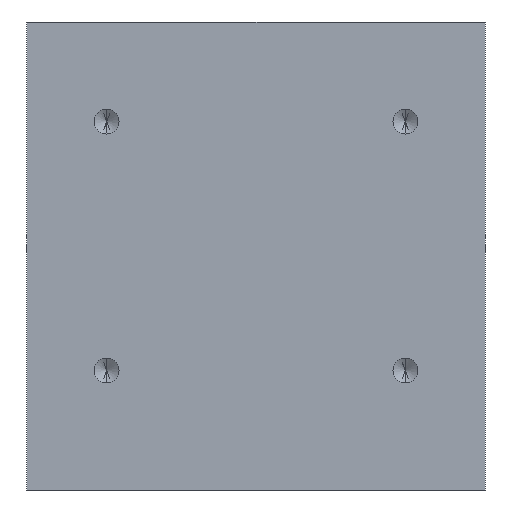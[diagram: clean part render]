
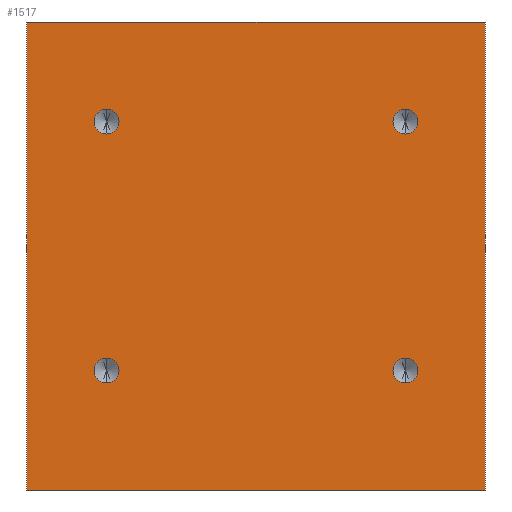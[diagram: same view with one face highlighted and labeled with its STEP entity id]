
A CAD part, left-side view. The second image highlights one B-rep face of the part: STEP entity #1517.
In plain terms, the highlighted planar face has unit normal (-1, 0, 0).
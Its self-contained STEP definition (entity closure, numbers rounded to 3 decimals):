
#8 = DIRECTION ( 'NONE',  ( 0., 0., 1. ) ) ;
#23 = EDGE_CURVE ( 'NONE', #1311, #704, #1229, .T. ) ;
#54 = CARTESIAN_POINT ( 'NONE',  ( -35., 23., 0. ) ) ;
#67 = CIRCLE ( 'NONE', #545, 1.25 ) ;
#73 = AXIS2_PLACEMENT_3D ( 'NONE', #816, #930, #1410 ) ;
#89 = CARTESIAN_POINT ( 'NONE',  ( -35., -15., 37. ) ) ;
#92 = CARTESIAN_POINT ( 'NONE',  ( -35., -23., 0. ) ) ;
#103 = CARTESIAN_POINT ( 'NONE',  ( -35., -15., 12. ) ) ;
#135 = EDGE_CURVE ( 'NONE', #1055, #355, #1482, .T. ) ;
#154 = VERTEX_POINT ( 'NONE', #353 ) ;
#189 = DIRECTION ( 'NONE',  ( 0., 0., -1. ) ) ;
#190 = VERTEX_POINT ( 'NONE', #1559 ) ;
#192 = CIRCLE ( 'NONE', #73, 1.25 ) ;
#195 = CARTESIAN_POINT ( 'NONE',  ( -35., -23., 0. ) ) ;
#217 = DIRECTION ( 'NONE',  ( 0., 0., 1. ) ) ;
#224 = CARTESIAN_POINT ( 'NONE',  ( -35., 15., 12. ) ) ;
#227 = DIRECTION ( 'NONE',  ( -1., 0., 0. ) ) ;
#249 = EDGE_CURVE ( 'NONE', #449, #883, #611, .T. ) ;
#266 = DIRECTION ( 'NONE',  ( 0., 0., 1. ) ) ;
#278 = ORIENTED_EDGE ( 'NONE', *, *, #533, .T. ) ;
#286 = CARTESIAN_POINT ( 'NONE',  ( -35., 15., 13.25 ) ) ;
#298 = CARTESIAN_POINT ( 'NONE',  ( -35., 23., 47. ) ) ;
#313 = CIRCLE ( 'NONE', #1085, 1.25 ) ;
#315 = CIRCLE ( 'NONE', #1111, 1.25 ) ;
#335 = ORIENTED_EDGE ( 'NONE', *, *, #622, .F. ) ;
#349 = VERTEX_POINT ( 'NONE', #396 ) ;
#353 = CARTESIAN_POINT ( 'NONE',  ( -35., -15., 10.75 ) ) ;
#355 = VERTEX_POINT ( 'NONE', #286 ) ;
#364 = ORIENTED_EDGE ( 'NONE', *, *, #1239, .F. ) ;
#384 = EDGE_LOOP ( 'NONE', ( #1308, #1060 ) ) ;
#396 = CARTESIAN_POINT ( 'NONE',  ( -35., -15., 38.25 ) ) ;
#405 = DIRECTION ( 'NONE',  ( 0., -1., 0. ) ) ;
#423 = ORIENTED_EDGE ( 'NONE', *, *, #1071, .F. ) ;
#426 = DIRECTION ( 'NONE',  ( 0., -1., 0. ) ) ;
#430 = AXIS2_PLACEMENT_3D ( 'NONE', #477, #1343, #713 ) ;
#443 = FACE_BOUND ( 'NONE', #531, .T. ) ;
#449 = VERTEX_POINT ( 'NONE', #1262 ) ;
#474 = AXIS2_PLACEMENT_3D ( 'NONE', #224, #942, #1192 ) ;
#477 = CARTESIAN_POINT ( 'NONE',  ( -35., 15., 37. ) ) ;
#505 = EDGE_CURVE ( 'NONE', #1195, #1072, #1284, .T. ) ;
#531 = EDGE_LOOP ( 'NONE', ( #1530, #335 ) ) ;
#533 = EDGE_CURVE ( 'NONE', #1072, #704, #563, .T. ) ;
#535 = FACE_BOUND ( 'NONE', #384, .T. ) ;
#536 = LINE ( 'NONE', #1246, #585 ) ;
#545 = AXIS2_PLACEMENT_3D ( 'NONE', #89, #677, #693 ) ;
#548 = ORIENTED_EDGE ( 'NONE', *, *, #1325, .F. ) ;
#563 = LINE ( 'NONE', #195, #1227 ) ;
#580 = AXIS2_PLACEMENT_3D ( 'NONE', #916, #934, #810 ) ;
#585 = VECTOR ( 'NONE', #405, 1000. ) ;
#589 = CARTESIAN_POINT ( 'NONE',  ( -35., -15., 12. ) ) ;
#611 = CIRCLE ( 'NONE', #430, 1.25 ) ;
#613 = EDGE_CURVE ( 'NONE', #1082, #349, #866, .T. ) ;
#622 = EDGE_CURVE ( 'NONE', #883, #449, #192, .T. ) ;
#636 = CARTESIAN_POINT ( 'NONE',  ( -35., 15., 10.75 ) ) ;
#647 = CARTESIAN_POINT ( 'NONE',  ( -35., 23., 47. ) ) ;
#677 = DIRECTION ( 'NONE',  ( -1., 0., 0. ) ) ;
#693 = DIRECTION ( 'NONE',  ( 0., 0., 1. ) ) ;
#704 = VERTEX_POINT ( 'NONE', #92 ) ;
#713 = DIRECTION ( 'NONE',  ( 0., 0., 1. ) ) ;
#731 = ORIENTED_EDGE ( 'NONE', *, *, #505, .T. ) ;
#751 = ORIENTED_EDGE ( 'NONE', *, *, #23, .F. ) ;
#778 = CARTESIAN_POINT ( 'NONE',  ( -35., -23., 47. ) ) ;
#810 = DIRECTION ( 'NONE',  ( 0., 0., 1. ) ) ;
#816 = CARTESIAN_POINT ( 'NONE',  ( -35., 15., 37. ) ) ;
#834 = CARTESIAN_POINT ( 'NONE',  ( -35., -23., 47. ) ) ;
#862 = ORIENTED_EDGE ( 'NONE', *, *, #613, .F. ) ;
#866 = CIRCLE ( 'NONE', #580, 1.25 ) ;
#883 = VERTEX_POINT ( 'NONE', #1478 ) ;
#893 = EDGE_LOOP ( 'NONE', ( #278, #751, #423, #731 ) ) ;
#916 = CARTESIAN_POINT ( 'NONE',  ( -35., -15., 37. ) ) ;
#926 = AXIS2_PLACEMENT_3D ( 'NONE', #834, #951, #1068 ) ;
#927 = DIRECTION ( 'NONE',  ( -1., 0., 0. ) ) ;
#930 = DIRECTION ( 'NONE',  ( -1., 0., 0. ) ) ;
#934 = DIRECTION ( 'NONE',  ( -1., 0., 0. ) ) ;
#942 = DIRECTION ( 'NONE',  ( -1., 0., 0. ) ) ;
#951 = DIRECTION ( 'NONE',  ( 1., 0., 0. ) ) ;
#978 = CARTESIAN_POINT ( 'NONE',  ( -35., 15., 12. ) ) ;
#1004 = FACE_BOUND ( 'NONE', #1385, .T. ) ;
#1008 = CARTESIAN_POINT ( 'NONE',  ( -35., -15., 35.75 ) ) ;
#1038 = FACE_BOUND ( 'NONE', #1485, .T. ) ;
#1040 = DIRECTION ( 'NONE',  ( 0., 0., -1. ) ) ;
#1055 = VERTEX_POINT ( 'NONE', #636 ) ;
#1060 = ORIENTED_EDGE ( 'NONE', *, *, #135, .F. ) ;
#1068 = DIRECTION ( 'NONE',  ( 0., 0., -1. ) ) ;
#1069 = ORIENTED_EDGE ( 'NONE', *, *, #1403, .F. ) ;
#1071 = EDGE_CURVE ( 'NONE', #1195, #1311, #536, .T. ) ;
#1072 = VERTEX_POINT ( 'NONE', #54 ) ;
#1082 = VERTEX_POINT ( 'NONE', #1008 ) ;
#1085 = AXIS2_PLACEMENT_3D ( 'NONE', #978, #1104, #266 ) ;
#1104 = DIRECTION ( 'NONE',  ( -1., 0., 0. ) ) ;
#1111 = AXIS2_PLACEMENT_3D ( 'NONE', #589, #227, #8 ) ;
#1192 = DIRECTION ( 'NONE',  ( 0., 0., 1. ) ) ;
#1195 = VERTEX_POINT ( 'NONE', #647 ) ;
#1227 = VECTOR ( 'NONE', #426, 1000. ) ;
#1229 = LINE ( 'NONE', #778, #1441 ) ;
#1239 = EDGE_CURVE ( 'NONE', #349, #1082, #67, .T. ) ;
#1246 = CARTESIAN_POINT ( 'NONE',  ( -35., -23., 47. ) ) ;
#1262 = CARTESIAN_POINT ( 'NONE',  ( -35., 15., 38.25 ) ) ;
#1284 = LINE ( 'NONE', #298, #1512 ) ;
#1299 = CARTESIAN_POINT ( 'NONE',  ( -35., -23., 47. ) ) ;
#1308 = ORIENTED_EDGE ( 'NONE', *, *, #1528, .F. ) ;
#1311 = VERTEX_POINT ( 'NONE', #1299 ) ;
#1325 = EDGE_CURVE ( 'NONE', #154, #190, #1426, .T. ) ;
#1343 = DIRECTION ( 'NONE',  ( -1., 0., 0. ) ) ;
#1385 = EDGE_LOOP ( 'NONE', ( #1069, #548 ) ) ;
#1403 = EDGE_CURVE ( 'NONE', #190, #154, #315, .T. ) ;
#1410 = DIRECTION ( 'NONE',  ( 0., 0., 1. ) ) ;
#1426 = CIRCLE ( 'NONE', #1454, 1.25 ) ;
#1441 = VECTOR ( 'NONE', #1040, 1000. ) ;
#1454 = AXIS2_PLACEMENT_3D ( 'NONE', #103, #927, #217 ) ;
#1478 = CARTESIAN_POINT ( 'NONE',  ( -35., 15., 35.75 ) ) ;
#1482 = CIRCLE ( 'NONE', #474, 1.25 ) ;
#1485 = EDGE_LOOP ( 'NONE', ( #364, #862 ) ) ;
#1503 = FACE_OUTER_BOUND ( 'NONE', #893, .T. ) ;
#1512 = VECTOR ( 'NONE', #189, 1000. ) ;
#1517 = ADVANCED_FACE ( 'NONE', ( #535, #443, #1038, #1004, #1503 ), #1569, .F. ) ;
#1528 = EDGE_CURVE ( 'NONE', #355, #1055, #313, .T. ) ;
#1530 = ORIENTED_EDGE ( 'NONE', *, *, #249, .F. ) ;
#1559 = CARTESIAN_POINT ( 'NONE',  ( -35., -15., 13.25 ) ) ;
#1569 = PLANE ( 'NONE',  #926 ) ;
